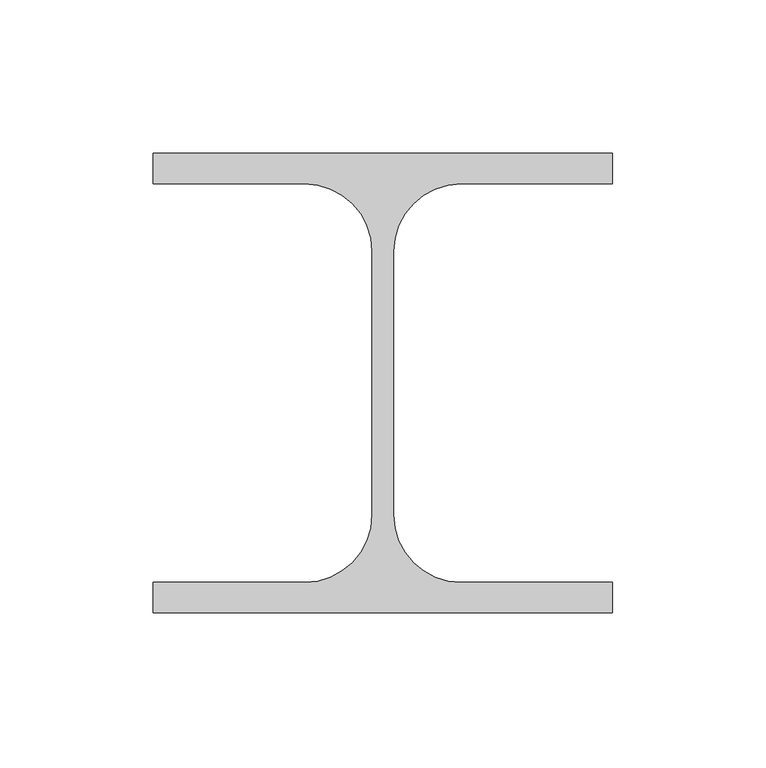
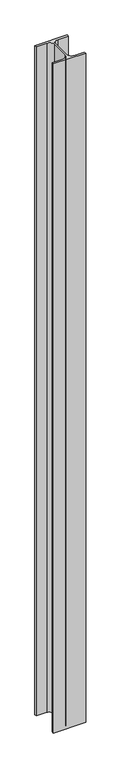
"""IFC4 building model written with IfcOpenShell, lengths in millimetres: column geometry, S柱 H型x : 階名+部材名."""

from ifc_helpers import new_model, si_unit, point, frame, frame_2d, origin, place, context, project, spatial, polyline, circle_curve, trimmed, segment, composite_curve, outline, extrude, source, transform, mapped, element, save


def column_5af704a6(model_context):
    return source(origin(), model_context, "Body", "SweptSolid", [
        extrude(outline(composite_curve([segment(polyline([(75.0, 75.0), (75.0, 65.0), (25.5, 65.0)]), True, "CONTINUOUS"), segment(trimmed(circle_curve(frame_2d((25.5, 43.0)), 22.0), [point((25.5, 65.0))], [point((3.5, 43.0))], True, "CARTESIAN"), True, "CONTINUOUS"), segment(polyline([(3.5, 43.0), (3.5, -43.0)]), True, "CONTINUOUS"), segment(trimmed(circle_curve(frame_2d((25.5, -43.0)), 22.0), [point((3.5, -43.0))], [point((25.5, -65.0))], True, "CARTESIAN"), True, "CONTINUOUS"), segment(polyline([(25.5, -65.0), (75.0, -65.0), (75.0, -75.0), (-75.0, -75.0), (-75.0, -65.0), (-25.5, -65.0)]), True, "CONTINUOUS"), segment(trimmed(circle_curve(frame_2d((-25.5, -43.0)), 22.0), [point((-25.5, -65.0))], [point((-3.5, -43.0))], True, "CARTESIAN"), True, "CONTINUOUS"), segment(polyline([(-3.5, -43.0), (-3.5, 43.0)]), True, "CONTINUOUS"), segment(trimmed(circle_curve(frame_2d((-25.5, 43.0)), 22.0), [point((-3.5, 43.0))], [point((-25.5, 65.0))], True, "CARTESIAN"), True, "CONTINUOUS"), segment(polyline([(-25.5, 65.0), (-75.0, 65.0), (-75.0, 75.0), (75.0, 75.0)]), True, "CONTINUOUS")], self_intersect=False)), frame((0.0, 0.0, 9850.0), z_axis=(0.0, 0.0, 1.0), x_axis=(1.0, 0.0, 0.0)), (0.0, 0.0, 1.0), 3300.0),
    ])


if __name__ == "__main__":
    model = new_model("IFC4")
    model_context = context("Model", 3, world=origin())
    ifc_project = project(units=[si_unit("LENGTHUNIT", "METRE", prefix="MILLI")], contexts=[model_context])
    site = spatial("IfcSite", under=ifc_project)
    building = spatial("IfcBuilding", under=site)
    placement = place(None, origin())
    column_shape = column_5af704a6(model_context)
    element("IfcColumn", 1, ObjectType="S柱 H型x : 階名+部材名", at=placement, inside=building, context=model_context, shape_type="MappedRepresentation", body=[
        mapped(column_shape, transform((0.0, 0.0, 0.0), x_axis=(1.0, 0.0, 0.0), y_axis=(0.0, 1.0, 0.0), z_axis=(0.0, 0.0, 1.0))),
    ])
    save(model, "model.ifc")
